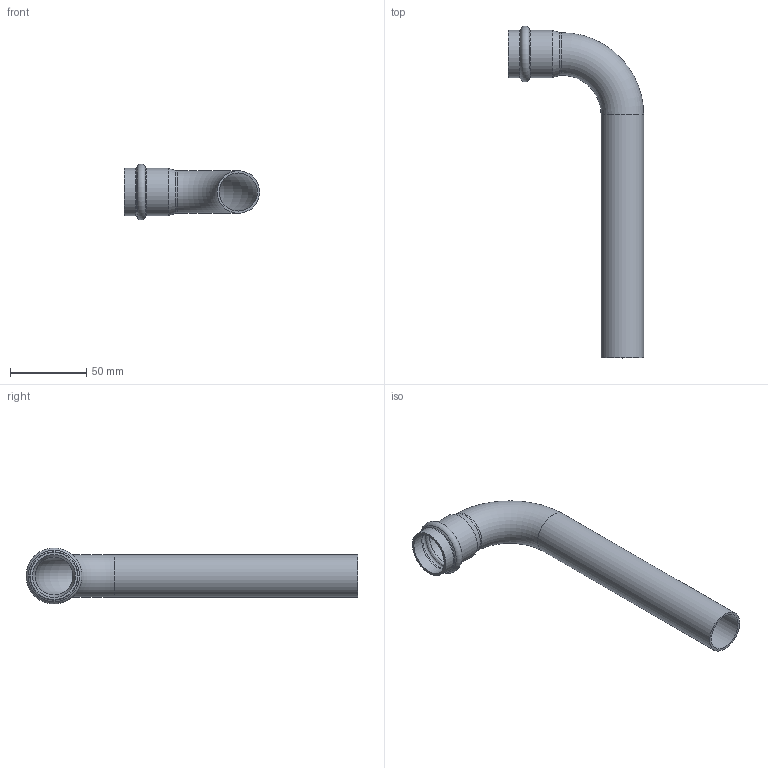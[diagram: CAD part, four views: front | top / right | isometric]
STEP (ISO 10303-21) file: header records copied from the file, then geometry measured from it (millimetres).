
FILE_DESCRIPTION((''),'2;1');
FILE_NAME('G:\Technics\CAD\Bauteile\028\69001L28(1).stp','2008-02-25T11:40:30',('herberg'),(''),'Autodesk Inventor 2008','Autodesk Inventor 2008','');
FILE_SCHEMA(('AUTOMOTIVE_DESIGN { 1 0 10303 214 1 1 1 1 }'));
Length unit declared in the file: millimetre
Products named in the file (1): 69001L28(1)
Bounding box: 89 x 218.39 x 36.79 mm (x, y, z)
Volume: 33209.7 mm3; surface area: 44544.3 mm2
Topology: 1 solids, 1 shells, 22 faces, 47 edges, 27 vertices
Faces by surface type: cylinder 8, torus 4, cone 4, bspline 4, plane 2
Full cylindrical faces by diameter (mm): 25 x2, 28 x2, 28.2 x2, 31.2 x2
Entity records: 634 total; most frequent: CARTESIAN_POINT 243, DIRECTION 82, ORIENTED_EDGE 44, EDGE_LOOP 44, AXIS2_PLACEMENT_3D 41, VERTEX_POINT 22, CIRCLE 22, EDGE_CURVE 22
